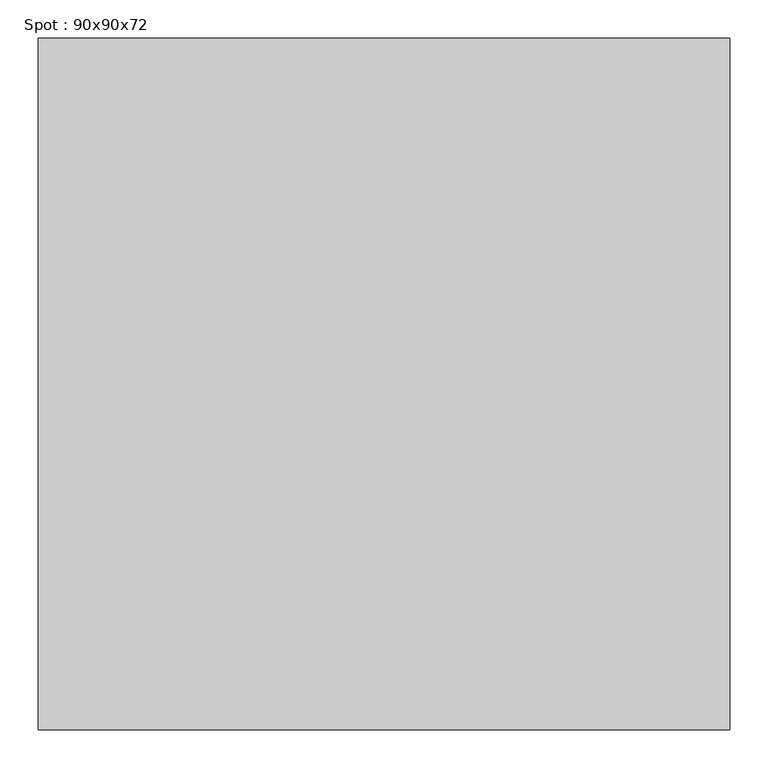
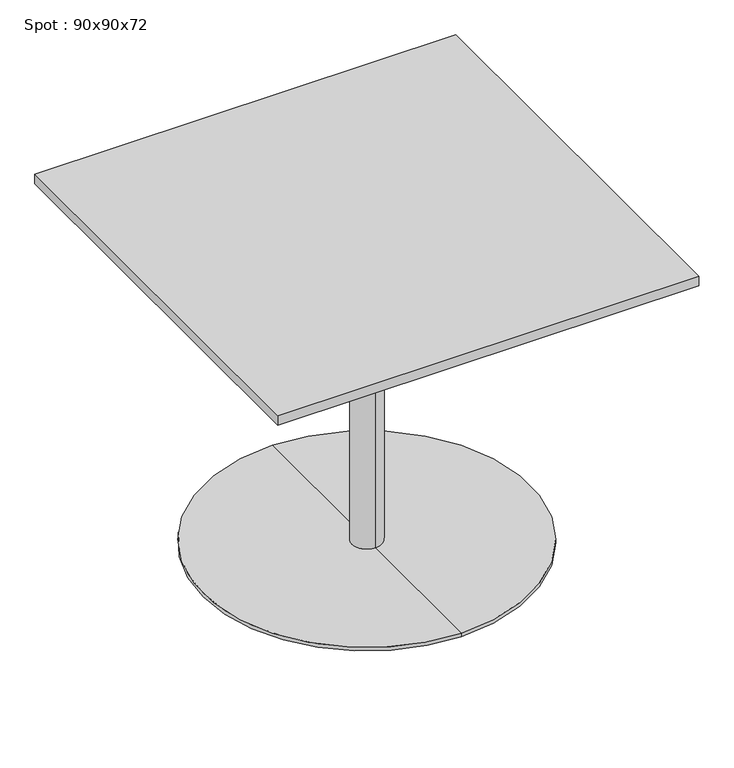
"""IFC4 building model written with IfcOpenShell, lengths in millimetres: furniture geometry, Spot : 90x90x72."""

from ifc_helpers import new_model, si_unit, frame, origin, place, context, project, spatial, polyline, circle_curve, outline, extrude, source, transform, mapped, element, save
from ifc_brep_helpers import plane_surface, cylinder_surface, revolved_surface, advanced_brep


def spot_90x90x72_129e7565(model_context):
    return source(origin(), model_context, "Body", "SolidModel", [
        extrude(outline(polyline([(450.0, 450.0), (450.0, -450.0), (-450.0, -450.0), (-450.0, 450.0), (450.0, 450.0)])), frame((0.0, 0.0, 698.0), z_axis=(0.0, 0.0, 1.0), x_axis=(1.0, 0.0, 0.0)), (0.0, 0.0, 1.0), 22.0),
        advanced_brep(
        [(0.0, 32.0, 10.0), (0.0, -32.0, 10.0), (0.0, -32.0, 667.406916), (0.0, 32.0, 667.406916), (0.0, 350.0, 10.0), (0.0, -350.0, 10.0), (0.0, 350.0, 2.0), (0.0, -350.0, 2.0), (0.0, 0.0, 2.0), (0.0, 150.0, 698.0), (0.0, -150.0, 698.0), (0.0, 0.0, 698.0), (0.0, 150.0, 686.7213673), (0.0, -150.0, 686.7213673)],
        [
            (0, 1, circle_curve(frame((0.0, 0.0, 10.0), z_axis=(0.0, 0.0, 1.0), x_axis=(0.0, -1.0, 0.0)), 32.0)),
            (1, 2),
            (2, 3, circle_curve(frame((0.0, 0.0, 667.406916), z_axis=(0.0, 0.0, -1.0), x_axis=(0.0, -1.0, 0.0)), 32.0)),
            (3, 0),
            (1, 0, circle_curve(frame((0.0, 0.0, 10.0), z_axis=(0.0, 0.0, 1.0), x_axis=(0.0, -1.0, 0.0)), 32.0)),
            (3, 2, circle_curve(frame((0.0, 0.0, 667.406916), z_axis=(0.0, 0.0, -1.0), x_axis=(0.0, -1.0, 0.0)), 32.0)),
            (4, 5, circle_curve(frame((0.0, 0.0, 10.0), z_axis=(0.0, 0.0, 1.0), x_axis=(0.0, -1.0, 0.0)), 350.0)),
            (5, 1),
            (0, 4),
            (5, 4, circle_curve(frame((0.0, 0.0, 10.0), z_axis=(0.0, 0.0, 1.0), x_axis=(0.0, -1.0, 0.0)), 350.0)),
            (6, 7, circle_curve(frame((0.0, 0.0, 2.0), z_axis=(0.0, 0.0, 1.0), x_axis=(0.0, -1.0, 0.0)), 350.0)),
            (7, 5),
            (4, 6),
            (7, 6, circle_curve(frame((0.0, 0.0, 2.0), z_axis=(0.0, 0.0, 1.0), x_axis=(0.0, -1.0, 0.0)), 350.0)),
            (8, 7),
            (6, 8),
            (9, 10, circle_curve(frame((0.0, 0.0, 698.0), z_axis=(0.0, 0.0, 1.0), x_axis=(0.0, -1.0, 0.0)), 150.0)),
            (10, 11),
            (11, 9),
            (10, 9, circle_curve(frame((0.0, 0.0, 698.0), z_axis=(0.0, 0.0, 1.0), x_axis=(0.0, -1.0, 0.0)), 150.0)),
            (12, 13, circle_curve(frame((0.0, 0.0, 686.7213673), z_axis=(0.0, 0.0, 1.0), x_axis=(0.0, -1.0, 0.0)), 150.0)),
            (13, 10),
            (9, 12),
            (13, 12, circle_curve(frame((0.0, 0.0, 686.7213673), z_axis=(0.0, 0.0, 1.0), x_axis=(0.0, -1.0, 0.0)), 150.0)),
            (2, 13),
            (12, 3),
        ],
        [
            cylinder_surface(frame((0.0, 0.0, 1060.0), z_axis=(0.0, 0.0, -1.0), x_axis=(0.0, -1.0, 0.0)), 32.0),
            plane_surface(frame((0.0, 0.0, 10.0), z_axis=(0.0, 0.0, 1.0), x_axis=(0.0, -1.0, 0.0))),
            cylinder_surface(frame((0.0, 0.0, 1060.0), z_axis=(0.0, 0.0, -1.0), x_axis=(0.0, -1.0, 0.0)), 350.0),
            plane_surface(frame((0.0, 0.0, 2.0), z_axis=(0.0, 0.0, -1.0), x_axis=(0.0, -1.0, 0.0))),
            plane_surface(frame((0.0, 0.0, 698.0), z_axis=(0.0, 0.0, 1.0), x_axis=(0.0, -1.0, 0.0))),
            cylinder_surface(frame((0.0, 0.0, 1060.0), z_axis=(0.0, 0.0, -1.0), x_axis=(0.0, -1.0, 0.0)), 150.0),
            revolved_surface(polyline([(0.0, -150.0, 686.7213673), (0.0, -32.0, 667.406916)]), (0.0, 0.0, 1060.0), (0.0, 0.0, -1.0)),
        ],
        [
            (0, [[1, 2, 3, 4]]),
            (0, [[5, -4, 6, -2]]),
            (1, [[7, 8, -1, 9]]),
            (1, [[10, -9, -5, -8]]),
            (2, [[11, 12, -7, 13]]),
            (2, [[14, -13, -10, -12]]),
            (3, [[15, -11, 16]]),
            (3, [[-16, -14, -15]]),
            (4, [[17, 18, 19]]),
            (4, [[20, -19, -18]]),
            (5, [[21, 22, -17, 23]]),
            (5, [[24, -23, -20, -22]]),
            (6, [[-3, 25, -21, 26]]),
            (6, [[-6, -26, -24, -25]]),
        ],
    ),
    ])


if __name__ == "__main__":
    model = new_model("IFC4")
    model_context = context("Model", 3, world=origin())
    ifc_project = project(units=[si_unit("LENGTHUNIT", "METRE", prefix="MILLI")], contexts=[model_context])
    site = spatial("IfcSite", under=ifc_project)
    building = spatial("IfcBuilding", under=site)
    placement = place(None, origin())
    spot_90x90x72_shape = spot_90x90x72_129e7565(model_context)
    element("IfcFurniture", 1, ObjectType="Spot : 90x90x72", at=placement, inside=building, context=model_context, shape_type="MappedRepresentation", body=[
        mapped(spot_90x90x72_shape, transform((0.0, 0.0, 0.0), x_axis=(1.0, 0.0, 0.0), y_axis=(0.0, 1.0, 0.0), z_axis=(0.0, 0.0, 1.0))),
    ])
    save(model, "model.ifc")
